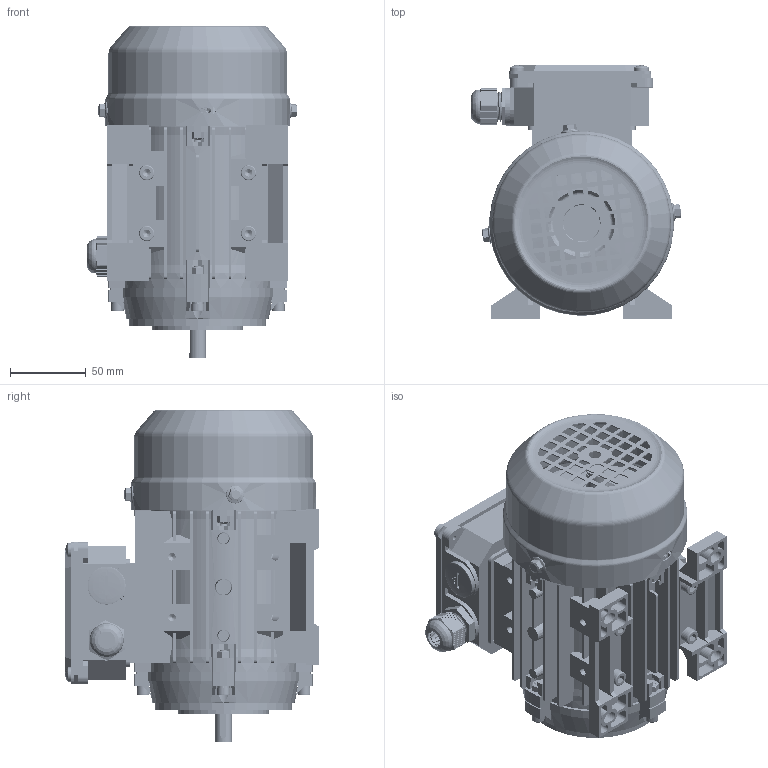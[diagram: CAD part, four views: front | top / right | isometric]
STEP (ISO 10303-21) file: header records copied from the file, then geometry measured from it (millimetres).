
FILE_DESCRIPTION (( 'STEP AP203' ), '1' );
FILE_NAME ('MS-63 B34 3Dͼ.STEP', '2024-08-05T08:50:42', ( 'User' ), ( 'China' ), 'SwSTEP 2.0', 'SolidWorks 2018', '' );
FILE_SCHEMA (( 'CONFIG_CONTROL_DESIGN' ));
Length unit declared in the file: millimetre
Products named in the file (20): MS63 B14ヶ裔; hexagon socket head cap screws gb_GB_FASTENER_SCREWS_HSHCS M6X20-S; MS63-71諉盄碟菁釱; MS-63 B34  3Dͼ; MS63 邧脯瑞欶; MS63-71諉盄碟裔; 蹟杶郋M20X1.5; MS63 儂褲; 蹟簸M20X1.5; MS63 B3綴裔; 黑芛20X1.5; deep groove ball bearings gb_Rolling bearings 6201 GB 276-94; hexagon socket head cap screws gb_GB_FASTENER_SCREWS_HSHCS M5X25-S; MS63 蛌粣; hex flange bolts-heavy grade b gb_GB_FASTENER_BOLT_HFBB M5X10-S; hex nuts, style 1-grades ab gb_GB_FASTENER_NUT_SNAB1 M5-S; 蚐猾24X12X5; cross recessed pan head screws gb_GB_CROSS_SCREWS_TYPE1 M5X6-6  H type-S; spring lock washers--normal type gb_GB_FASTENER_WASHER_SW 5; MS-63 菁褐
Assembly tree (46 placements, depth 2):
  MS-63 B34  3Dͼ
    MS63 儂褲
    MS63 B3綴裔
    deep groove ball bearings gb_Rolling bearings 6201 GB 276-94  x2
    MS63 蛌粣
    蚐猾24X12X5  x2
    MS-63 菁褐  x2
    MS63-71諉盄碟菁釱
    MS63-71諉盄碟裔
    蹟杶郋M20X1.5
    蹟簸M20X1.5
    黑芛20X1.5
    hexagon socket head cap screws gb_GB_FASTENER_SCREWS_HSHCS M5X25-S  x8
    hex nuts, style 1-grades ab gb_GB_FASTENER_NUT_SNAB1 M5-S  x7
    spring lock washers--normal type gb_GB_FASTENER_WASHER_SW 5  x4
    hexagon socket head cap screws gb_GB_FASTENER_SCREWS_HSHCS M6X20-S  x4
    MS63 邧脯瑞欶
    hex flange bolts-heavy grade b gb_GB_FASTENER_BOLT_HFBB M5X10-S  x3
    cross recessed pan head screws gb_GB_CROSS_SCREWS_TYPE1 M5X6-6  H type-S  x4
    MS63 B14ヶ裔
Bounding box: 138.64 x 167.5 x 218.64 mm (x, y, z)
Volume: 520676.1 mm3; surface area: 406240.3 mm2
Topology: 49 solids, 49 shells, 7862 faces, 18777 edges, 11003 vertices
Faces by surface type: cone 3004, plane 2274, cylinder 2146, torus 212, bspline 170, sphere 56
Entity records: 143591 total; most frequent: CARTESIAN_POINT 47057, ORIENTED_EDGE 20408, DIRECTION 18393, EDGE_CURVE 10204, VERTEX_POINT 6463, AXIS2_PLACEMENT_3D 6355, LINE 5683, VECTOR 5683
